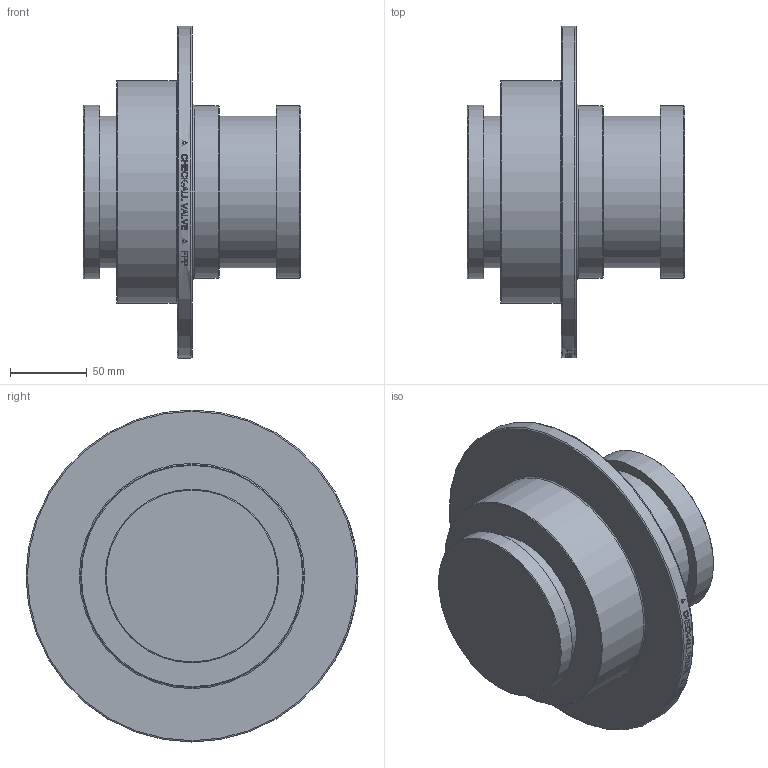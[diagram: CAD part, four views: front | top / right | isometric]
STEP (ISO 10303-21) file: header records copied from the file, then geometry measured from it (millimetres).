
FILE_DESCRIPTION( ( 'Unknown' ), '1' );
FILE_NAME( 'Y:/ENGR/3D Solid Edge Models/FP/FP STEP/FPP.stp', 'Unknown', ( 'Unknown' ), ( 'Unknown' ), 'PSStep 14.0', 'Unknown', ' ' );
FILE_SCHEMA( ( 'AUTOMOTIVE_DESIGN { 1 0 10303 214 1 1 1 1 }' ) );
Length unit declared in the file: millimetre
Products named in the file (1): 1
Bounding box: 141.48 x 215.9 x 215.9 mm (x, y, z)
Volume: 1810054.6 mm3; surface area: 136712.7 mm2
Topology: 1 solids, 1 shells, 213 faces, 530 edges, 351 vertices
Faces by surface type: plane 128, bspline 45, cylinder 32, torus 5, cone 3
Full cylindrical faces by diameter (mm): 98.425 x2, 112.395 x2, 112.776 x1, 144.907 x1, 215.9 x1
Entity records: 10253 total; most frequent: CARTESIAN_POINT 4596, ORIENTED_EDGE 1030, EDGE_CURVE 515, B_SPLINE_CURVE_WITH_KNOTS 492, DIRECTION 384, VERTEX_POINT 351, EDGE_LOOP 260, FACE_OUTER_BOUND 225
